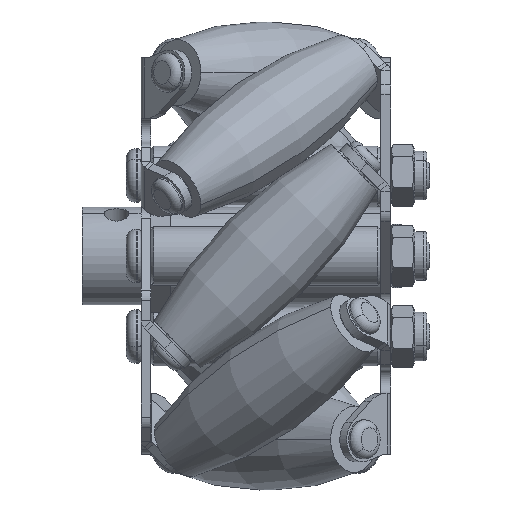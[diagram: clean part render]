
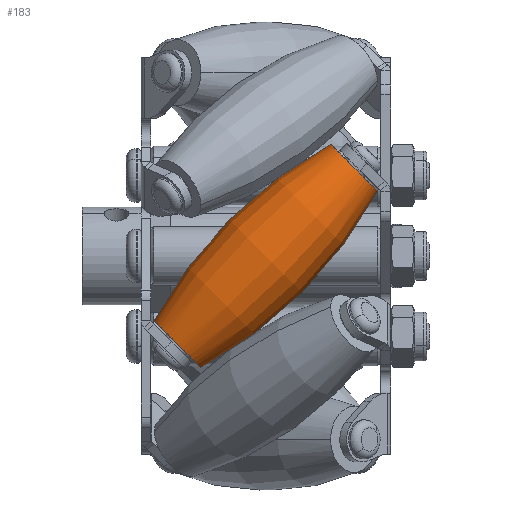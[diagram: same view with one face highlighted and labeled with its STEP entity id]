
A CAD part, front view. The second image highlights one B-rep face of the part: STEP entity #183.
In plain terms, the highlighted face is a revolution surface.
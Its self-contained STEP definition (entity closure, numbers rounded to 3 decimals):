
#183 = ADVANCED_FACE('',(#184),#199,.F.);
#184 = FACE_BOUND('',#185,.F.);
#185 = EDGE_LOOP('',(#186,#236,#265,#289));
#186 = ORIENTED_EDGE('',*,*,#187,.T.);
#187 = EDGE_CURVE('',#188,#190,#192,.T.);
#188 = VERTEX_POINT('',#189);
#189 = CARTESIAN_POINT('',(6.632,18.75,11.399));
#190 = VERTEX_POINT('',#191);
#191 = CARTESIAN_POINT('',(-11.399,18.75,-6.632));
#192 = SURFACE_CURVE('',#193,(#198,#217),.PCURVE_S1.);
#193 = CIRCLE('',#194,44.2);
#194 = AXIS2_PLACEMENT_3D('',#195,#196,#197);
#195 = CARTESIAN_POINT('',(27.542,18.75,-27.542));
#196 = DIRECTION('',(0.,-1.,0.));
#197 = DIRECTION('',(0.,0.,-1.));
#198 = PCURVE('',#199,#211);
#199 = SURFACE_OF_REVOLUTION('',#200,#208);
#200 = B_SPLINE_CURVE_WITH_KNOTS('',6,(#201,#202,#203,#204,#205,#206,
    #207),.UNSPECIFIED.,.F.,.F.,(7,7),(2.849,3.434),
  .PIECEWISE_BEZIER_KNOTS.);
#201 = CARTESIAN_POINT('',(-6.632,18.75,-11.399));
#202 = CARTESIAN_POINT('',(-2.834,18.75,-9.36));
#203 = CARTESIAN_POINT('',(0.726,18.75,-6.876));
#204 = CARTESIAN_POINT('',(3.982,18.75,-3.982));
#205 = CARTESIAN_POINT('',(6.876,18.75,-0.726));
#206 = CARTESIAN_POINT('',(9.36,18.75,2.834));
#207 = CARTESIAN_POINT('',(11.399,18.75,6.632));
#208 = AXIS1_PLACEMENT('',#209,#210);
#209 = CARTESIAN_POINT('',(0.,18.75,0.)
  );
#210 = DIRECTION('',(-0.707,0.,-0.707)
  );
#211 = DEFINITIONAL_REPRESENTATION('',(#212),#216);
#212 = LINE('',#213,#214);
#213 = CARTESIAN_POINT('',(3.142,7.069));
#214 = VECTOR('',#215,1.);
#215 = DIRECTION('',(0.,-1.));
#216 = ( GEOMETRIC_REPRESENTATION_CONTEXT(2) 
PARAMETRIC_REPRESENTATION_CONTEXT() REPRESENTATION_CONTEXT('2D SPACE',''
  ) );
#217 = PCURVE('',#218,#230);
#218 = SURFACE_OF_REVOLUTION('',#219,#227);
#219 = B_SPLINE_CURVE_WITH_KNOTS('',6,(#220,#221,#222,#223,#224,#225,
    #226),.UNSPECIFIED.,.F.,.F.,(7,7),(2.849,3.434),
  .PIECEWISE_BEZIER_KNOTS.);
#220 = CARTESIAN_POINT('',(-6.632,18.75,-11.399));
#221 = CARTESIAN_POINT('',(-2.834,18.75,-9.36));
#222 = CARTESIAN_POINT('',(0.726,18.75,-6.876));
#223 = CARTESIAN_POINT('',(3.982,18.75,-3.982));
#224 = CARTESIAN_POINT('',(6.876,18.75,-0.726));
#225 = CARTESIAN_POINT('',(9.36,18.75,2.834));
#226 = CARTESIAN_POINT('',(11.399,18.75,6.632));
#227 = AXIS1_PLACEMENT('',#228,#229);
#228 = CARTESIAN_POINT('',(0.,18.75,0.)
  );
#229 = DIRECTION('',(-0.707,0.,-0.707)
  );
#230 = DEFINITIONAL_REPRESENTATION('',(#231),#235);
#231 = LINE('',#232,#233);
#232 = CARTESIAN_POINT('',(3.142,7.069));
#233 = VECTOR('',#234,1.);
#234 = DIRECTION('',(0.,-1.));
#235 = ( GEOMETRIC_REPRESENTATION_CONTEXT(2) 
PARAMETRIC_REPRESENTATION_CONTEXT() REPRESENTATION_CONTEXT('2D SPACE',''
  ) );
#236 = ORIENTED_EDGE('',*,*,#237,.T.);
#237 = EDGE_CURVE('',#190,#238,#240,.T.);
#238 = VERTEX_POINT('',#239);
#239 = CARTESIAN_POINT('',(-6.632,18.75,-11.399));
#240 = SURFACE_CURVE('',#241,(#246,#253),.PCURVE_S1.);
#241 = CIRCLE('',#242,3.371);
#242 = AXIS2_PLACEMENT_3D('',#243,#244,#245);
#243 = CARTESIAN_POINT('',(-9.016,18.75,-9.016));
#244 = DIRECTION('',(-0.707,0.,-0.707)
  );
#245 = DIRECTION('',(-0.707,0.,0.707)
  );
#246 = PCURVE('',#199,#247);
#247 = DEFINITIONAL_REPRESENTATION('',(#248),#252);
#248 = LINE('',#249,#250);
#249 = CARTESIAN_POINT('',(3.142,2.849));
#250 = VECTOR('',#251,1.);
#251 = DIRECTION('',(1.,0.));
#252 = ( GEOMETRIC_REPRESENTATION_CONTEXT(2) 
PARAMETRIC_REPRESENTATION_CONTEXT() REPRESENTATION_CONTEXT('2D SPACE',''
  ) );
#253 = PCURVE('',#254,#259);
#254 = PLANE('',#255);
#255 = AXIS2_PLACEMENT_3D('',#256,#257,#258);
#256 = CARTESIAN_POINT('',(-9.016,20.75,-9.016));
#257 = DIRECTION('',(-0.707,0.,-0.707)
  );
#258 = DIRECTION('',(-0.707,0.,0.707));
#259 = DEFINITIONAL_REPRESENTATION('',(#260),#264);
#260 = CIRCLE('',#261,3.371);
#261 = AXIS2_PLACEMENT_2D('',#262,#263);
#262 = CARTESIAN_POINT('',(0.,-2.));
#263 = DIRECTION('',(1.,0.));
#264 = ( GEOMETRIC_REPRESENTATION_CONTEXT(2) 
PARAMETRIC_REPRESENTATION_CONTEXT() REPRESENTATION_CONTEXT('2D SPACE',''
  ) );
#265 = ORIENTED_EDGE('',*,*,#266,.F.);
#266 = EDGE_CURVE('',#267,#238,#269,.T.);
#267 = VERTEX_POINT('',#268);
#268 = CARTESIAN_POINT('',(11.399,18.75,6.632));
#269 = SURFACE_CURVE('',#270,(#275,#282),.PCURVE_S1.);
#270 = CIRCLE('',#271,44.2);
#271 = AXIS2_PLACEMENT_3D('',#272,#273,#274);
#272 = CARTESIAN_POINT('',(-27.542,18.75,27.542));
#273 = DIRECTION('',(0.,1.,0.));
#274 = DIRECTION('',(0.,0.,1.));
#275 = PCURVE('',#199,#276);
#276 = DEFINITIONAL_REPRESENTATION('',(#277),#281);
#277 = LINE('',#278,#279);
#278 = CARTESIAN_POINT('',(6.283,5.498));
#279 = VECTOR('',#280,1.);
#280 = DIRECTION('',(0.,-1.));
#281 = ( GEOMETRIC_REPRESENTATION_CONTEXT(2) 
PARAMETRIC_REPRESENTATION_CONTEXT() REPRESENTATION_CONTEXT('2D SPACE',''
  ) );
#282 = PCURVE('',#218,#283);
#283 = DEFINITIONAL_REPRESENTATION('',(#284),#288);
#284 = LINE('',#285,#286);
#285 = CARTESIAN_POINT('',(0.,5.498));
#286 = VECTOR('',#287,1.);
#287 = DIRECTION('',(0.,-1.));
#288 = ( GEOMETRIC_REPRESENTATION_CONTEXT(2) 
PARAMETRIC_REPRESENTATION_CONTEXT() REPRESENTATION_CONTEXT('2D SPACE',''
  ) );
#289 = ORIENTED_EDGE('',*,*,#290,.F.);
#290 = EDGE_CURVE('',#188,#267,#291,.T.);
#291 = SURFACE_CURVE('',#292,(#297,#304),.PCURVE_S1.);
#292 = CIRCLE('',#293,3.371);
#293 = AXIS2_PLACEMENT_3D('',#294,#295,#296);
#294 = CARTESIAN_POINT('',(9.016,18.75,9.016));
#295 = DIRECTION('',(-0.707,0.,-0.707)
  );
#296 = DIRECTION('',(-0.707,0.,0.707));
#297 = PCURVE('',#199,#298);
#298 = DEFINITIONAL_REPRESENTATION('',(#299),#303);
#299 = LINE('',#300,#301);
#300 = CARTESIAN_POINT('',(3.142,3.434));
#301 = VECTOR('',#302,1.);
#302 = DIRECTION('',(1.,0.));
#303 = ( GEOMETRIC_REPRESENTATION_CONTEXT(2) 
PARAMETRIC_REPRESENTATION_CONTEXT() REPRESENTATION_CONTEXT('2D SPACE',''
  ) );
#304 = PCURVE('',#305,#310);
#305 = PLANE('',#306);
#306 = AXIS2_PLACEMENT_3D('',#307,#308,#309);
#307 = CARTESIAN_POINT('',(9.016,20.75,9.016));
#308 = DIRECTION('',(0.707,0.,0.707)
  );
#309 = DIRECTION('',(0.707,0.,-0.707));
#310 = DEFINITIONAL_REPRESENTATION('',(#311),#319);
#311 = ( BOUNDED_CURVE() B_SPLINE_CURVE(2,(#312,#313,#314,#315,#316,#317
,#318),.UNSPECIFIED.,.T.,.F.) B_SPLINE_CURVE_WITH_KNOTS((1,2,2,2,2,1),(
    -2.094,0.,2.094,4.189,6.283,
8.378),.UNSPECIFIED.) CURVE() GEOMETRIC_REPRESENTATION_ITEM() 
RATIONAL_B_SPLINE_CURVE((1.,0.5,1.,0.5,1.,0.5,1.)) REPRESENTATION_ITEM(
  '') );
#312 = CARTESIAN_POINT('',(-3.371,-2.));
#313 = CARTESIAN_POINT('',(-3.371,3.839));
#314 = CARTESIAN_POINT('',(1.686,0.919));
#315 = CARTESIAN_POINT('',(6.742,-2.));
#316 = CARTESIAN_POINT('',(1.686,-4.919));
#317 = CARTESIAN_POINT('',(-3.371,-7.839));
#318 = CARTESIAN_POINT('',(-3.371,-2.));
#319 = ( GEOMETRIC_REPRESENTATION_CONTEXT(2) 
PARAMETRIC_REPRESENTATION_CONTEXT() REPRESENTATION_CONTEXT('2D SPACE',''
  ) );
